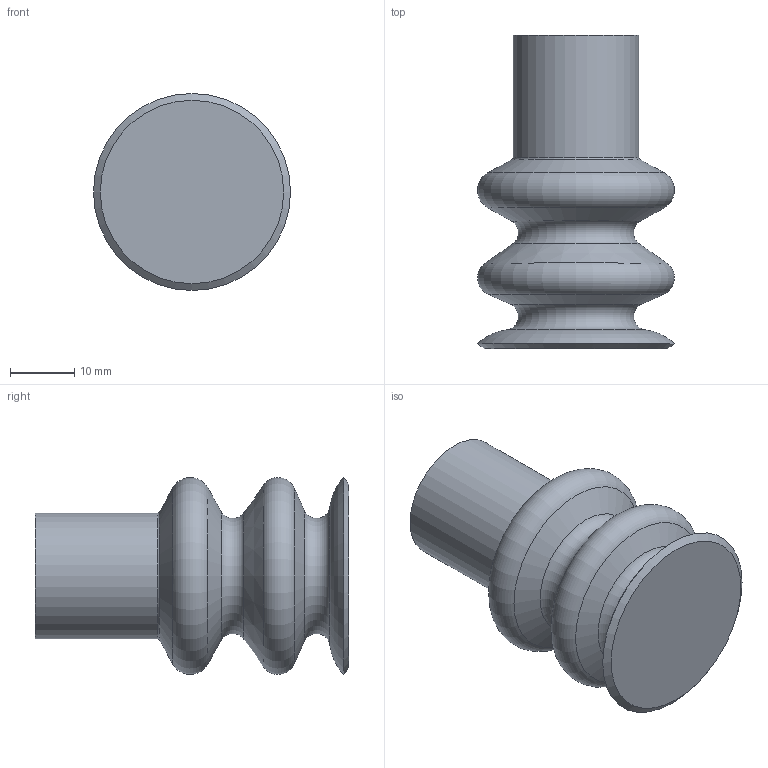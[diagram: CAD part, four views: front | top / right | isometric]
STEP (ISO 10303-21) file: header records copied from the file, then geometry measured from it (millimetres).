
FILE_DESCRIPTION(/* description */ (''),/* implementation_level */ '2;1');
FILE_NAME(/* name */ 'W:\Technik\Konstruktion\CAD-Daten\Vakuumsauger\21_\21.030.021\21.030.021_Kd neu.stp',/* time_stamp */ '2017-08-23T12:38:22+02:00',/* author */ ('DFloßmann'),/* organization */ (''),/* preprocessor_version */ 'ST-DEVELOPER v16.5',/* originating_system */ 'Autodesk Inventor 2017',/* authorisation */ '');
FILE_SCHEMA (('AUTOMOTIVE_DESIGN { 1 0 10303 214 3 1 1 }'));
Length unit declared in the file: millimetre
Products named in the file (1): 21.030.021_Kd neu
Bounding box: 30.6 x 48.7 x 30.6 mm (x, y, z)
Volume: 19081.7 mm3; surface area: 6321.4 mm2
Topology: 1 solids, 1 shells, 18 faces, 31 edges, 17 vertices
Faces by surface type: torus 6, cone 5, plane 4, cylinder 3
Full cylindrical faces by diameter (mm): 7.4 x1, 11.2 x1, 19.5 x1
Entity records: 384 total; most frequent: DIRECTION 72, CARTESIAN_POINT 53, AXIS2_PLACEMENT_3D 36, EDGE_LOOP 34, ORIENTED_EDGE 34, FACE_OUTER_BOUND 18, ADVANCED_FACE 18, CIRCLE 17
